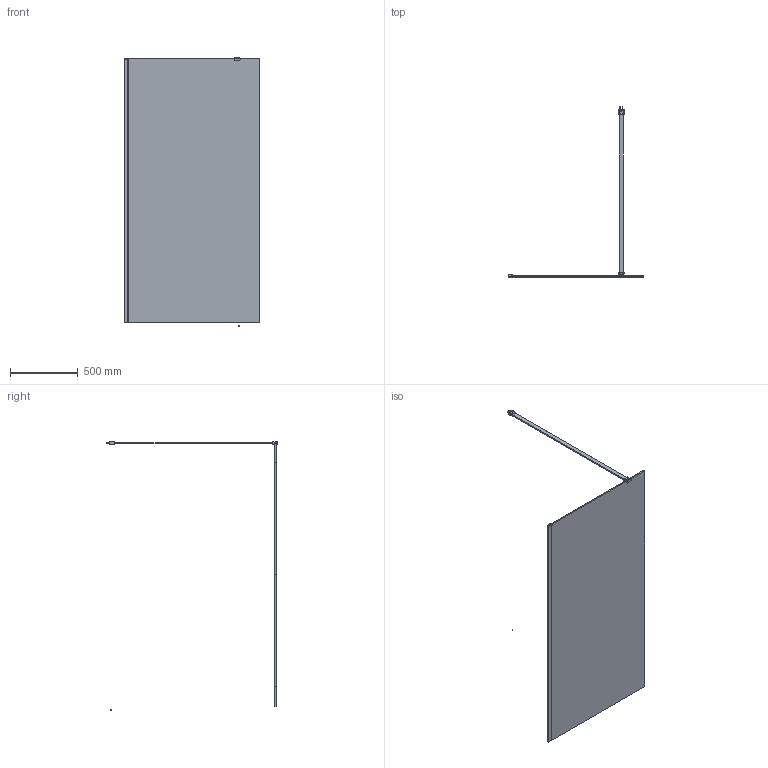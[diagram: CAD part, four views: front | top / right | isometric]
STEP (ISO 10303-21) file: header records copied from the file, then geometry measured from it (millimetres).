
FILE_DESCRIPTION((''),'2;1');
FILE_NAME('0-703510-1_1000_ASM','2022-05-30T14:25:50',('Administrator'),(''),'CREO PARAMETRIC BY PTC INC, 2017110','CREO PARAMETRIC BY PTC INC, 2017110','');
FILE_SCHEMA(('CONFIG_CONTROL_DESIGN'));
Length unit declared in the file: millimetre
Products named in the file (16): 00_6-943_1; 00_4_1; 004_5_1; 00_3_1; 00_6-2094_1; 0044_5_1; 20001_2_1; 0045_5_1; CTZG_ST4X30_18_1; M6-8_4_1; M4-5_4_1; 0046_4_1; 00_9_1; 0-703510-1_ASM_22_ASM_1_ASM; 0-703510-1_ASM_ASM_1_ASM; 0-703510-1_1000_ASM
Assembly tree (23 placements, depth 4):
  0-703510-1_1000_ASM
    0-703510-1_ASM_ASM_1_ASM
      0-703510-1_ASM_22_ASM_1_ASM
        00_6-943_1
        00_4_1
        004_5_1
        00_3_1
        00_6-2094_1
        0044_5_1
        20001_2_1
        0045_5_1
        CTZG_ST4X30_18_1  x2
        M6-8_4_1  x2
        M4-5_4_1  x7
        0046_4_1
        00_9_1
Bounding box: 1000 x 1262.72 x 1979.7 mm (x, y, z)
Volume: 16599964.4 mm3; surface area: 4164986.3 mm2
Topology: 21 solids, 21 shells, 617 faces, 1695 edges, 1136 vertices
Faces by surface type: cylinder 299, plane 182, bspline 118, cone 12, torus 4, extrusion 2
Entity records: 20496 total; most frequent: CARTESIAN_POINT 12864, ORIENTED_EDGE 1640, DIRECTION 1349, EDGE_CURVE 820, VERTEX_POINT 553, AXIS2_PLACEMENT_3D 476, VECTOR 397, LINE 396
